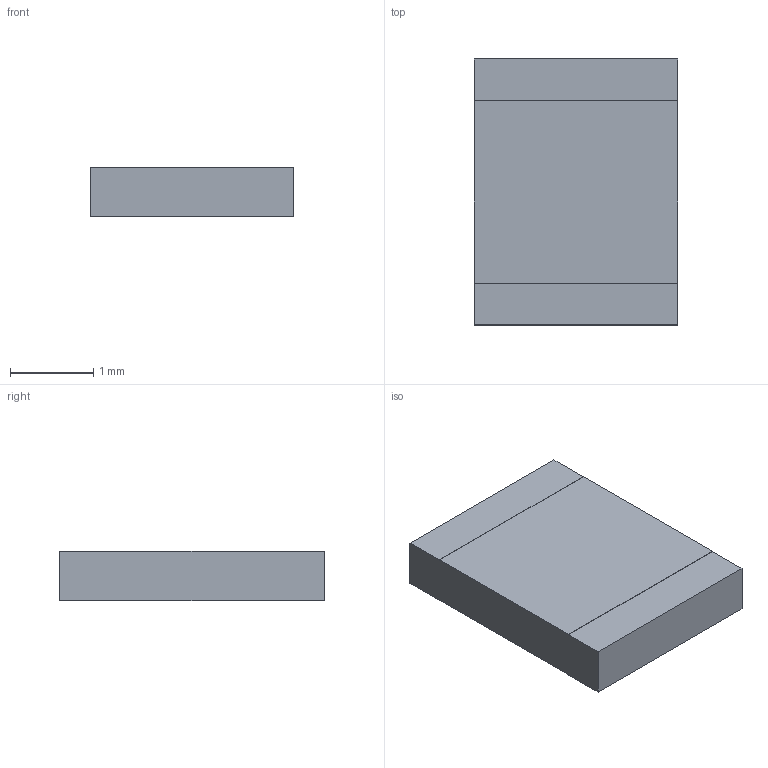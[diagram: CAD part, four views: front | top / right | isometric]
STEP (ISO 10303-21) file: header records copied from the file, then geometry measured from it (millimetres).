
FILE_DESCRIPTION(/* description */ (''),/* implementation_level */ '2;1');
FILE_NAME(/* name */ '\\wsse03\home\msaalfrank\Konstruktion\tknuschke\1210.stp',/* time_stamp */ '2020-11-09T12:26:38+01:00',/* author */ ('msaalfrank'),/* organization */ (''),/* preprocessor_version */ 'ST-DEVELOPER v16.5',/* originating_system */ 'Autodesk Inventor 2017',/* authorisation */ '');
FILE_SCHEMA (('AUTOMOTIVE_DESIGN { 1 0 10303 214 3 1 1 }'));
Length unit declared in the file: millimetre
Products named in the file (1): 1210
Bounding box: 2.45 x 3.2 x 0.6 mm (x, y, z)
Volume: 4.7 mm3; surface area: 22.5 mm2
Topology: 1 solids, 1 shells, 14 faces, 36 edges, 24 vertices
Faces by surface type: plane 14
Entity records: 481 total; most frequent: CARTESIAN_POINT 75, ORIENTED_EDGE 72, DIRECTION 66, LINE 36, VECTOR 36, EDGE_CURVE 36, VERTEX_POINT 24, AXIS2_PLACEMENT_3D 15
